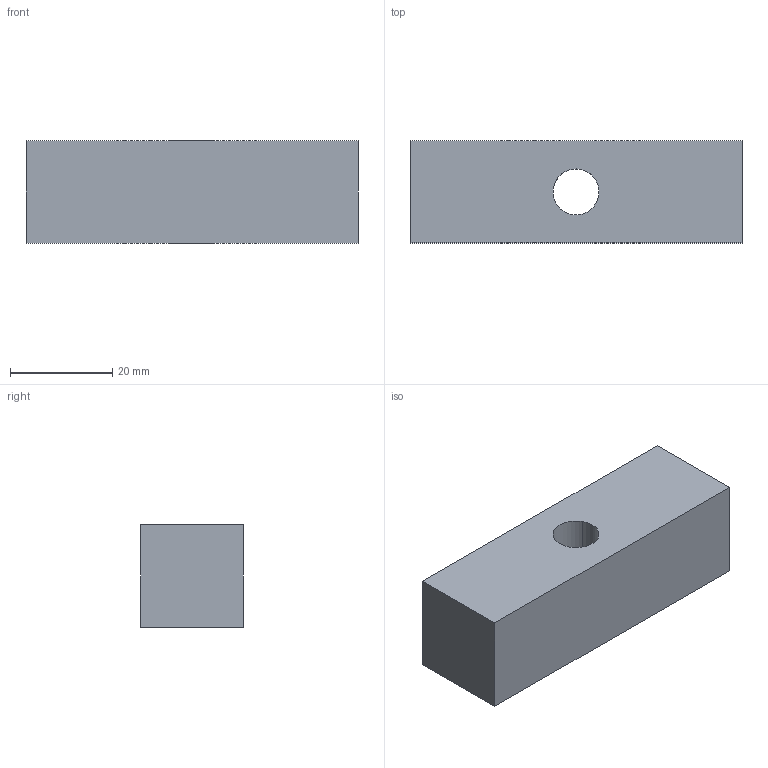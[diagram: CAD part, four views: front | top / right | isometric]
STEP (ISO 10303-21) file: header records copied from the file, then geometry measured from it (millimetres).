
FILE_DESCRIPTION(('CATIA V5 STEP Exchange','CAx-IF Rec.Pracs.--- Model Styling and Organization---1.5--- 2016-08-15','CAx-IF Rec.Pracs.---Supplemental Geometry---1.0---2011-11-01','CAx-IF Rec.Pracs.--- Composite Materials ---1.1---2010-07-15','CAx-IF Rec.Pracs.---External References---2.1---2005-01-19'),'2;1');
FILE_NAME('E:\WAT\Sprezarka\121_00_00_Tlocznik1\Tlocznik1_KPL\Tlocznik1_stp\121_01_06_Wpust.stp','2023-08-01T08:49:43+00:00',('none'),('none'),'CATIA Version 5-6 Release 2022 SP3','CATIA V5 STEP AP214 v2','none');
FILE_SCHEMA(('AUTOMOTIVE_DESIGN { 1 0 10303 214 1 1 1 1 }'));
Length unit declared in the file: millimetre
Products named in the file (1): 121_01_06_Wpust
Bounding box: 65 x 20 x 20 mm (x, y, z)
Volume: 24727.7 mm3; surface area: 6438.3 mm2
Topology: 1 solids, 1 shells, 8 faces, 18 edges, 12 vertices
Faces by surface type: plane 6, cylinder 2
Entity records: 269 total; most frequent: CARTESIAN_POINT 38, ORIENTED_EDGE 36, DIRECTION 32, EDGE_CURVE 18, VECTOR 14, LINE 14, AXIS2_PLACEMENT_3D 12, VERTEX_POINT 12
